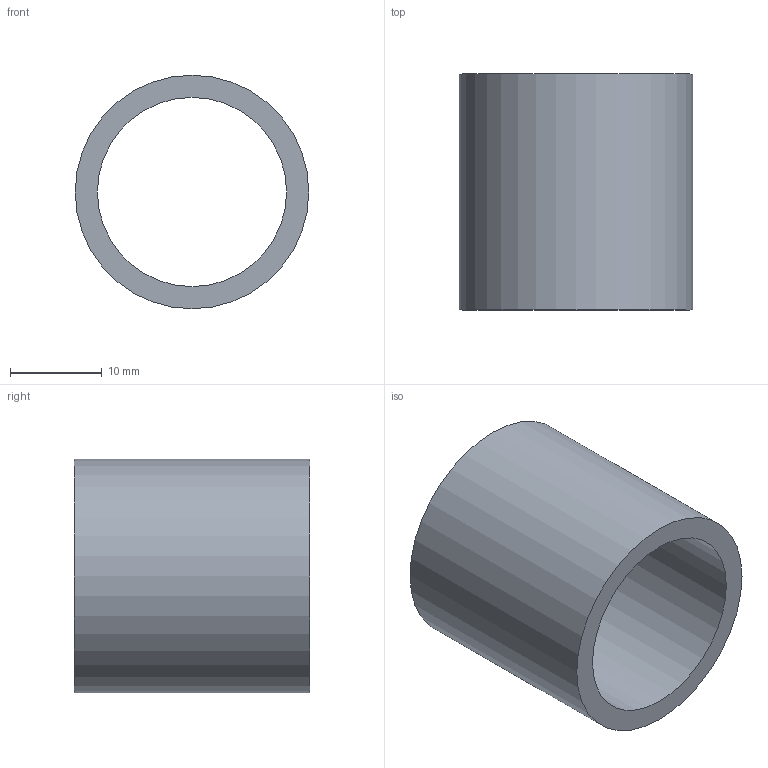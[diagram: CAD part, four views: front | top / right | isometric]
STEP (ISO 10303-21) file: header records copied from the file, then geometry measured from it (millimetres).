
FILE_DESCRIPTION(/* description */ (''),/* implementation_level */ '2;1');
FILE_NAME(/* name */ '4130-RND-100-095-METRIC.step',/* time_stamp */ '2025-08-05T15:05:35-07:00',/* author */ (''),/* organization */ (''),/* preprocessor_version */ 'ST-DEVELOPER v20.1',/* originating_system */ 'Autodesk Translation Framework v14.10.0.0',/* authorisation */ '');
FILE_SCHEMA (('AUTOMOTIVE_DESIGN { 1 0 10303 214 3 1 1 }'));
Length unit declared in the file: millimetre
Products named in the file (1): (Unsaved)
Bounding box: 25.4 x 25.65 x 25.4 mm (x, y, z)
Volume: 4470.4 mm3; surface area: 4053.8 mm2
Topology: 1 solids, 1 shells, 4 faces, 6 edges, 4 vertices
Faces by surface type: cylinder 2, plane 2
Full cylindrical faces by diameter (mm): 20.574 x1, 25.4 x1
Entity records: 131 total; most frequent: DIRECTION 20, CARTESIAN_POINT 15, ORIENTED_EDGE 12, AXIS2_PLACEMENT_3D 9, EDGE_LOOP 6, EDGE_CURVE 6, FACE_OUTER_BOUND 4, CIRCLE 4
